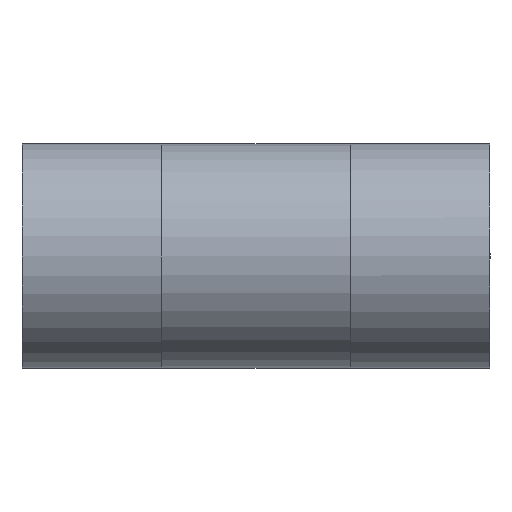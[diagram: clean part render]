
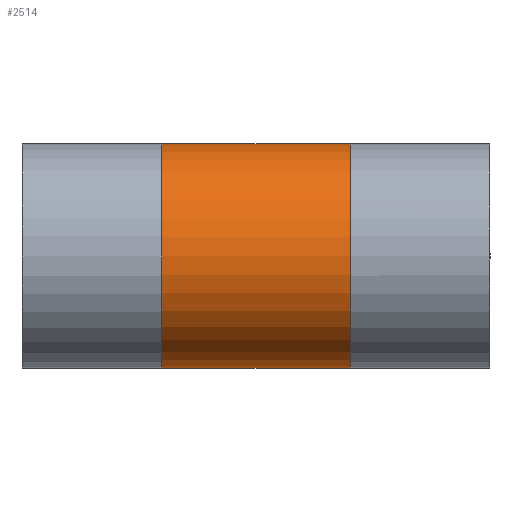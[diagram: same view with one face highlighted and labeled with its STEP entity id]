
A CAD part, front view. The second image highlights one B-rep face of the part: STEP entity #2514.
In plain terms, the highlighted cylindrical face has radius 17.25 mm (diameter 34.5 mm), a partial arc.
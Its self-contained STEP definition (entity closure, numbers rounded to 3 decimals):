
#1516=CARTESIAN_POINT('',(14.492,14.357,9.562));
#1517=VERTEX_POINT('',#1516);
#1527=CARTESIAN_POINT('',(14.492,14.357,-9.562));
#1528=VERTEX_POINT('',#1527);
#1529=CARTESIAN_POINT('',(14.492,0.0,0.0));
#1530=DIRECTION('',(-1.0,0.0,0.0));
#1531=DIRECTION('',(0.0,1.0,0.0));
#1532=AXIS2_PLACEMENT_3D('',#1529,#1530,#1531);
#1533=CIRCLE('',#1532,17.25);
#1534=EDGE_CURVE('',#1528,#1517,#1533,.T.);
#2314=CARTESIAN_POINT('',(0.,8.231,15.16));
#2315=VERTEX_POINT('',#2314);
#2323=CARTESIAN_POINT('',(0.,8.231,15.16));
#2324=CARTESIAN_POINT('',(0.565,8.231,15.16));
#2325=CARTESIAN_POINT('',(1.319,8.283,15.132));
#2326=CARTESIAN_POINT('',(2.795,8.512,15.005));
#2327=CARTESIAN_POINT('',(4.393,8.926,14.768));
#2328=CARTESIAN_POINT('',(6.389,9.699,14.277));
#2329=CARTESIAN_POINT('',(8.522,10.721,13.539));
#2330=CARTESIAN_POINT('',(10.212,11.67,12.728));
#2331=CARTESIAN_POINT('',(11.786,12.615,11.78));
#2332=CARTESIAN_POINT('',(13.02,13.39,10.907));
#2333=CARTESIAN_POINT('',(13.97,14.011,10.077));
#2334=CARTESIAN_POINT('',(14.445,14.326,9.609));
#2335=CARTESIAN_POINT('',(14.492,14.357,9.562));
#2336=B_SPLINE_CURVE_WITH_KNOTS('',3,(#2323,#2324,#2325,#2326,#2327,#2328,#2329,#2330,#2331,#2332,#2333,#2334,#2335),.UNSPECIFIED.,.F.,.U.,(4,1,1,1,1,1,1,1,1,1,4),(-9.642,-9.513,-9.47,-9.298,-9.126,-8.953,-8.695,-8.609,-8.437,-8.265,-8.246),.UNSPECIFIED.);
#2337=EDGE_CURVE('',#2315,#1517,#2336,.T.);
#2342=CARTESIAN_POINT('',(-14.492,14.357,-9.562));
#2343=VERTEX_POINT('',#2342);
#2344=CARTESIAN_POINT('',(14.492,14.357,-9.562));
#2345=CARTESIAN_POINT('',(14.444,14.325,-9.61));
#2346=CARTESIAN_POINT('',(13.825,13.914,-10.22));
#2347=CARTESIAN_POINT('',(12.538,13.077,-11.302));
#2348=CARTESIAN_POINT('',(10.907,12.078,-12.336));
#2349=CARTESIAN_POINT('',(9.816,11.454,-12.901));
#2350=CARTESIAN_POINT('',(9.067,11.039,-13.259));
#2351=CARTESIAN_POINT('',(7.812,10.371,-13.801));
#2352=CARTESIAN_POINT('',(6.266,9.646,-14.31));
#2353=CARTESIAN_POINT('',(4.498,8.986,-14.728));
#2354=CARTESIAN_POINT('',(3.101,8.576,-14.969));
#2355=CARTESIAN_POINT('',(1.512,8.293,-15.126));
#2356=CARTESIAN_POINT('',(0.002,8.2,-15.176));
#2357=CARTESIAN_POINT('',(-1.505,8.292,-15.127));
#2358=CARTESIAN_POINT('',(-3.221,8.597,-14.957));
#2359=CARTESIAN_POINT('',(-4.606,9.022,-14.707));
#2360=CARTESIAN_POINT('',(-6.372,9.695,-14.276));
#2361=CARTESIAN_POINT('',(-7.832,10.381,-13.794));
#2362=CARTESIAN_POINT('',(-9.27,11.147,-13.171));
#2363=CARTESIAN_POINT('',(-10.01,11.564,-12.802));
#2364=CARTESIAN_POINT('',(-11.095,12.193,-12.218));
#2365=CARTESIAN_POINT('',(-12.555,13.088,-11.29));
#2366=CARTESIAN_POINT('',(-13.83,13.918,-10.215));
#2367=CARTESIAN_POINT('',(-14.445,14.326,-9.609));
#2368=CARTESIAN_POINT('',(-14.492,14.357,-9.562));
#2369=B_SPLINE_CURVE_WITH_KNOTS('',3,(#2344,#2345,#2346,#2347,#2348,#2349,#2350,#2351,#2352,#2353,#2354,#2355,#2356,#2357,#2358,#2359,#2360,#2361,#2362,#2363,#2364,#2365,#2366,#2367,#2368),.UNSPECIFIED.,.F.,.U.,(4,1,1,1,1,1,1,1,1,1,1,1,1,1,1,1,1,1,1,1,1,1,4),(-6.218,-6.199,-5.969,-5.739,-5.653,-5.625,-5.51,-5.28,-5.194,-5.051,-4.936,-4.821,-4.706,-4.592,-4.419,-4.362,-4.132,-4.018,-3.932,-3.903,-3.673,-3.444,-3.424),.UNSPECIFIED.);
#2370=EDGE_CURVE('',#1528,#2343,#2369,.T.);
#2398=CARTESIAN_POINT('',(-14.492,14.357,9.562));
#2399=VERTEX_POINT('',#2398);
#2407=CARTESIAN_POINT('',(-14.492,14.357,9.562));
#2408=CARTESIAN_POINT('',(-14.445,14.326,9.608));
#2409=CARTESIAN_POINT('',(-13.972,14.012,10.075));
#2410=CARTESIAN_POINT('',(-13.014,13.386,10.913));
#2411=CARTESIAN_POINT('',(-11.524,12.451,11.965));
#2412=CARTESIAN_POINT('',(-9.922,11.503,12.876));
#2413=CARTESIAN_POINT('',(-8.216,10.574,13.645));
#2414=CARTESIAN_POINT('',(-6.372,9.692,14.281));
#2415=CARTESIAN_POINT('',(-4.403,8.93,14.765));
#2416=CARTESIAN_POINT('',(-2.615,8.464,15.032));
#2417=CARTESIAN_POINT('',(-1.133,8.265,15.141));
#2418=CARTESIAN_POINT('',(-0.377,8.231,15.16));
#2419=CARTESIAN_POINT('',(0.,8.231,15.16));
#2420=CARTESIAN_POINT('',(0.,8.231,15.16));
#2421=CARTESIAN_POINT('',(0.,8.231,15.16));
#2422=CARTESIAN_POINT('',(0.,8.231,15.16));
#2423=B_SPLINE_CURVE_WITH_KNOTS('',3,(#2407,#2408,#2409,#2410,#2411,#2412,#2413,#2414,#2415,#2416,#2417,#2418,#2419,#2420,#2421,#2422),.UNSPECIFIED.,.F.,.U.,(4,1,1,1,1,1,1,1,1,1,3,4),(-1.396,-1.377,-1.205,-1.033,-0.861,-0.689,-0.517,-0.344,-0.172,-0.086,0.0,0.),.UNSPECIFIED.);
#2424=EDGE_CURVE('',#2399,#2315,#2423,.T.);
#2492=CARTESIAN_POINT('',(-14.492,0.0,0.0));
#2493=DIRECTION('',(1.0,0.0,0.0));
#2494=DIRECTION('',(0.0,1.0,0.0));
#2495=AXIS2_PLACEMENT_3D('',#2492,#2493,#2494);
#2496=CIRCLE('',#2495,17.25);
#2497=EDGE_CURVE('',#2399,#2343,#2496,.T.);
#2502=CARTESIAN_POINT('',(0.,0.0,0.0));
#2503=DIRECTION('',(1.0,0.0,0.0));
#2504=DIRECTION('',(0.0,1.0,0.0));
#2505=AXIS2_PLACEMENT_3D('',#2502,#2503,#2504);
#2506=CYLINDRICAL_SURFACE('',#2505,17.25);
#2507=ORIENTED_EDGE('',*,*,#1534,.T.);
#2508=ORIENTED_EDGE('',*,*,#2337,.F.);
#2509=ORIENTED_EDGE('',*,*,#2424,.F.);
#2510=ORIENTED_EDGE('',*,*,#2497,.T.);
#2511=ORIENTED_EDGE('',*,*,#2370,.F.);
#2512=EDGE_LOOP('',(#2507,#2508,#2509,#2510,#2511));
#2513=FACE_OUTER_BOUND('',#2512,.T.);
#2514=ADVANCED_FACE('',(#2513),#2506,.T.);
